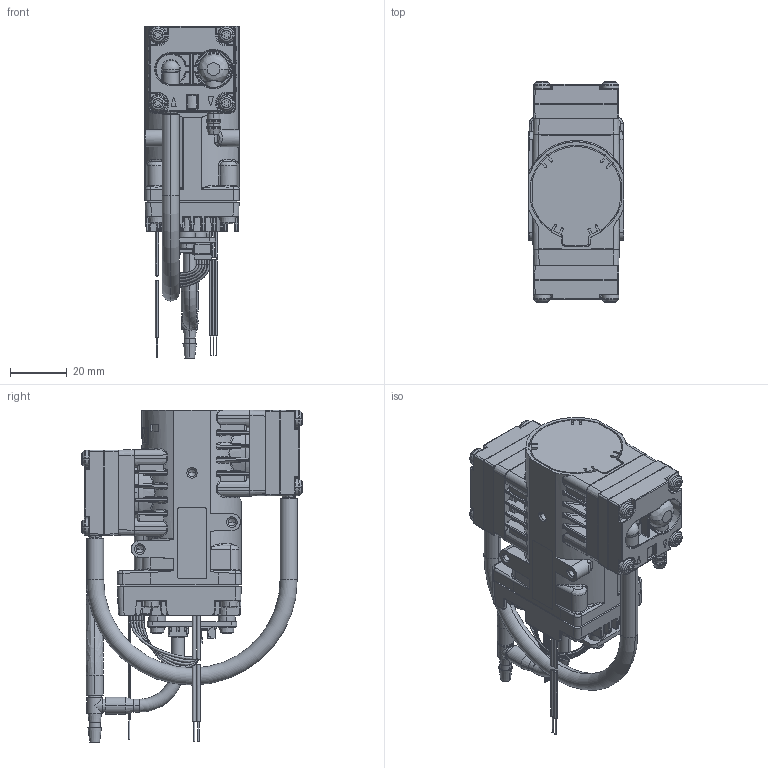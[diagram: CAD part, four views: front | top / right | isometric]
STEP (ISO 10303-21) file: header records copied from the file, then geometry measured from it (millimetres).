
FILE_DESCRIPTION((''),'2;1');
FILE_NAME('NVC830-3KPDC-BI5','2025-11-26T14:22:46',('LuternauerR'),('KNF Flodos AG, 6210 Sursee, Switzerland'),'CREO PARAMETRIC BY PTC INC, 2024401','CREO PARAMETRIC BY PTC INC, 2024401','');
FILE_SCHEMA(('AP242_MANAGED_MODEL_BASED_3D_ENGINEERING_MIM_LF { 1 0 10303 442 1 1 4 }'));
Length unit declared in the file: millimetre
Products named in the file (1): NVC830-3KPDC-BI5
Bounding box: 33.5 x 77.38 x 116.58 mm (x, y, z)
Volume: 118773.8 mm3; surface area: 38033.9 mm2
Topology: 6 solids, 6 shells, 4979 faces, 12628 edges, 7719 vertices
Faces by surface type: plane 1980, cylinder 1322, bspline 951, cone 318, sphere 180, torus 167, extrusion 61
Entity records: 269321 total; most frequent: CARTESIAN_POINT 121735, ORIENTED_EDGE 25166, DIRECTION 21120, EDGE_CURVE 12583, VERTEX_POINT 7719, AXIS2_PLACEMENT_3D 7394, VECTOR 6332, LINE 6271
